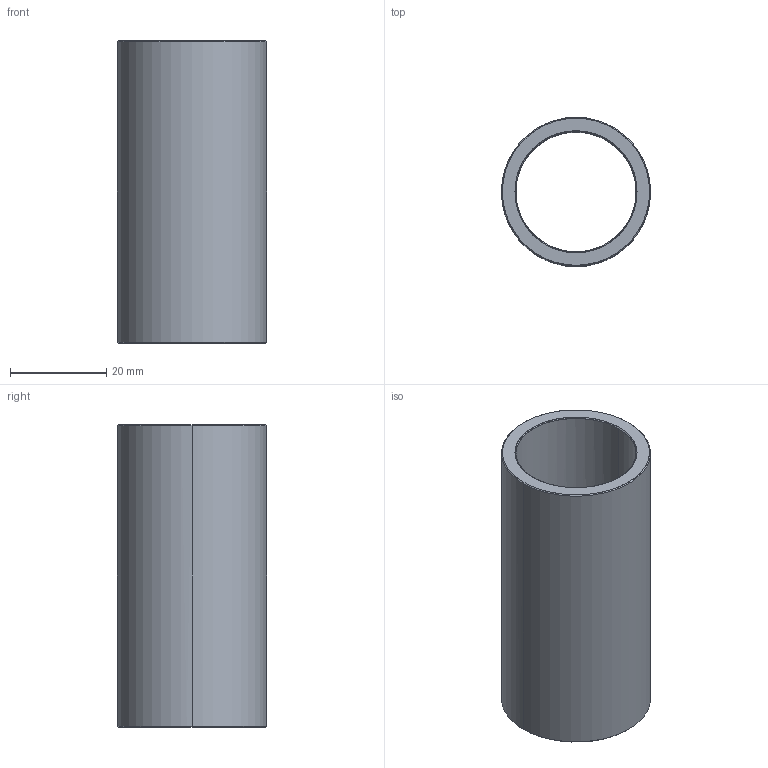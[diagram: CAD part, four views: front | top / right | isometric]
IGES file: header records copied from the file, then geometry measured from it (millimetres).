
Start section: Write IGES format                                    datakit 2008 (c)
Global section: file name: Unknown; native system: DATAKIT Converter; preprocessor: Unknown; author: Unknown; organization: Unknown; date: 950613.180003; units: millimetre
Bounding box: 31 x 31 x 63 mm (x, y, z)
Surface area: 11570.1 mm2 (no closed solid volume)
Topology: 0 solids, 0 shells, 14 faces, 56 edges, 56 vertices
Faces by surface type: revolution 12, bspline 2
